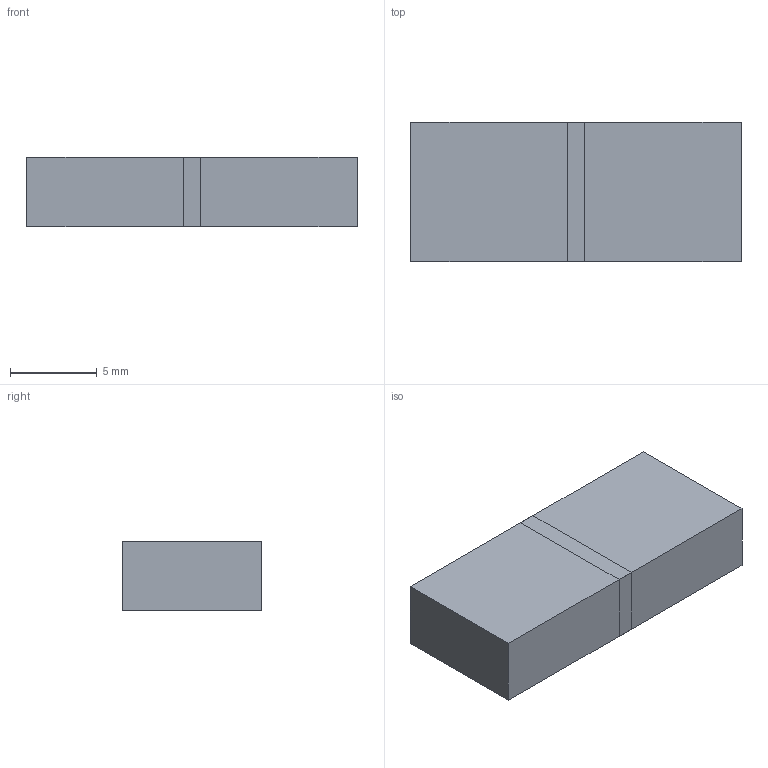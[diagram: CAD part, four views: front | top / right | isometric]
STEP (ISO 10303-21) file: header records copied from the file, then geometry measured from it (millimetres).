
FILE_DESCRIPTION(('Open CASCADE Model'),'2;1');
FILE_NAME('Open CASCADE Shape Model','2026-11-17T09:28:06',('Author'),( 'Open CASCADE'),'Open CASCADE STEP processor 8.0','Open CASCADE 8.0' ,'Unknown');
FILE_SCHEMA(('AUTOMOTIVE_DESIGN { 1 0 10303 214 1 1 1 1 }'));
Length unit declared in the file: millimetre
Products named in the file (3): Open CASCADE STEP translator 8.0 4; Open CASCADE STEP translator 8.0 4.1; Open CASCADE STEP translator 8.0 4.2
Assembly tree (2 placements, depth 2):
  Open CASCADE STEP translator 8.0 4
    Open CASCADE STEP translator 8.0 4.1
    Open CASCADE STEP translator 8.0 4.2
Bounding box: 19 x 8 x 4 mm (x, y, z)
Surface area: 608 mm2
Topology: 2 solids, 2 shells, 12 faces, 24 edges, 16 vertices
Faces by surface type: plane 12
Entity records: 664 total; most frequent: CARTESIAN_POINT 103, DIRECTION 102, LINE 72, VECTOR 72, ORIENTED_EDGE 48, PCURVE 48, DEFINITIONAL_REPRESENTATION 48, EDGE_CURVE 24
